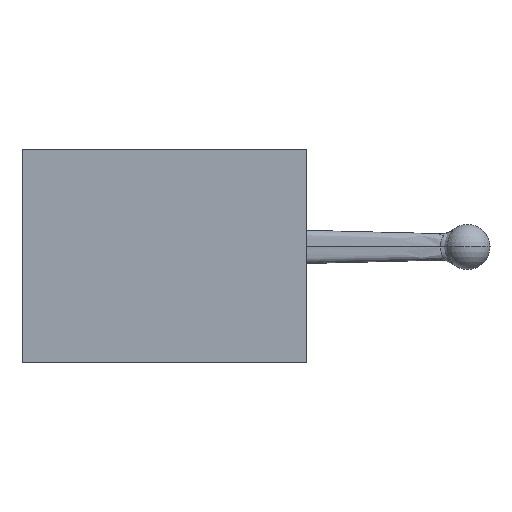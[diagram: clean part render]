
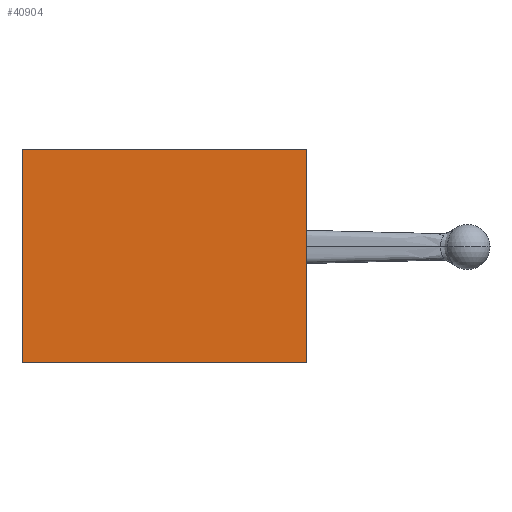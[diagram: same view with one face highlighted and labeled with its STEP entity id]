
A CAD part, left-side view. The second image highlights one B-rep face of the part: STEP entity #40904.
In plain terms, the highlighted planar face has unit normal (-1, 0, 0).
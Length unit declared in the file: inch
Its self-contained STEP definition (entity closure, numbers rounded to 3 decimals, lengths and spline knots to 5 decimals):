
#311 = VERTEX_POINT ( 'NONE', #13835 ) ;
#928 = CARTESIAN_POINT ( 'NONE',  ( -2.375, -3., 2.25 ) ) ;
#1946 = DIRECTION ( 'NONE',  ( 0., 0., -1. ) ) ;
#5263 = LINE ( 'NONE', #36743, #46066 ) ;
#5298 = ORIENTED_EDGE ( 'NONE', *, *, #38287, .F. ) ;
#5355 = VECTOR ( 'NONE', #7812, 39.37008 ) ;
#5727 = DIRECTION ( 'NONE',  ( 1., 0., 0. ) ) ;
#6117 = VERTEX_POINT ( 'NONE', #928 ) ;
#6803 = LINE ( 'NONE', #38539, #12169 ) ;
#7050 = EDGE_CURVE ( 'NONE', #35720, #27211, #8565, .T. ) ;
#7812 = DIRECTION ( 'NONE',  ( 0., -1., 0. ) ) ;
#8367 = DIRECTION ( 'NONE',  ( 0., 0., -1. ) ) ;
#8565 = LINE ( 'NONE', #31423, #5355 ) ;
#11424 = PLANE ( 'NONE',  #35630 ) ;
#12169 = VECTOR ( 'NONE', #26853, 39.37008 ) ;
#13835 = CARTESIAN_POINT ( 'NONE',  ( -2.375, 3., 2.25 ) ) ;
#15986 = CARTESIAN_POINT ( 'NONE',  ( -2.375, -3., 2.25 ) ) ;
#25585 = EDGE_CURVE ( 'NONE', #311, #35720, #5263, .T. ) ;
#26853 = DIRECTION ( 'NONE',  ( 0., -1., 0. ) ) ;
#27211 = VERTEX_POINT ( 'NONE', #43166 ) ;
#30055 = LINE ( 'NONE', #30299, #46721 ) ;
#30299 = CARTESIAN_POINT ( 'NONE',  ( -2.375, -3., 2.25 ) ) ;
#31286 = ORIENTED_EDGE ( 'NONE', *, *, #7050, .T. ) ;
#31423 = CARTESIAN_POINT ( 'NONE',  ( -2.375, -3., -2.25 ) ) ;
#32417 = ORIENTED_EDGE ( 'NONE', *, *, #25585, .T. ) ;
#35630 = AXIS2_PLACEMENT_3D ( 'NONE', #15986, #5727, #8367 ) ;
#35720 = VERTEX_POINT ( 'NONE', #43823 ) ;
#36743 = CARTESIAN_POINT ( 'NONE',  ( -2.375, 3., 2.25 ) ) ;
#38287 = EDGE_CURVE ( 'NONE', #6117, #27211, #30055, .T. ) ;
#38539 = CARTESIAN_POINT ( 'NONE',  ( -2.375, -3., 2.25 ) ) ;
#40904 = ADVANCED_FACE ( 'NONE', ( #46221 ), #11424, .F. ) ;
#41852 = EDGE_CURVE ( 'NONE', #311, #6117, #6803, .T. ) ;
#41981 = DIRECTION ( 'NONE',  ( 0., 0., -1. ) ) ;
#42121 = ORIENTED_EDGE ( 'NONE', *, *, #41852, .F. ) ;
#43166 = CARTESIAN_POINT ( 'NONE',  ( -2.375, -3., -2.25 ) ) ;
#43823 = CARTESIAN_POINT ( 'NONE',  ( -2.375, 3., -2.25 ) ) ;
#46066 = VECTOR ( 'NONE', #1946, 39.37008 ) ;
#46221 = FACE_OUTER_BOUND ( 'NONE', #49050, .T. ) ;
#46721 = VECTOR ( 'NONE', #41981, 39.37008 ) ;
#49050 = EDGE_LOOP ( 'NONE', ( #31286, #5298, #42121, #32417 ) ) ;
